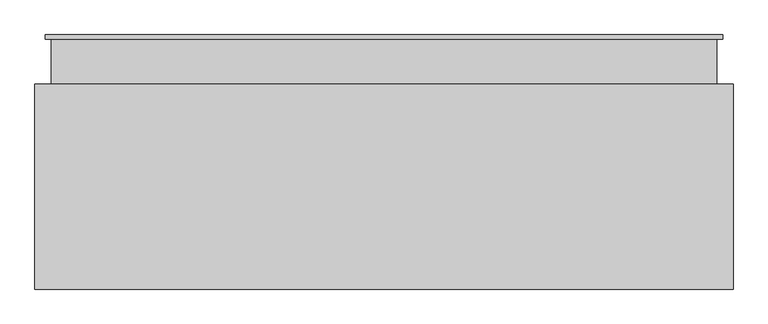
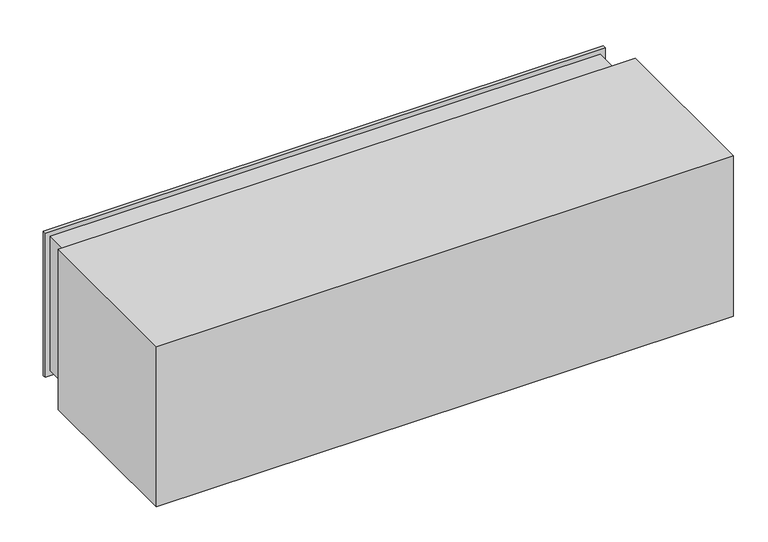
"""IFC4 building model written with IfcOpenShell, lengths in millimetres: air terminal geometry, 020_排気ガラリ : 排気ガラリ."""

from ifc_helpers import new_model, si_unit, frame, origin, place, context, project, spatial, polyline, outline, extrude, faceted_brep, source, transform, mapped, element, save


def air_terminal_4b5e6698(model_context):
    return source(origin(), model_context, "Body", "SolidModel", [
        extrude(outline(polyline([(-48.0, 151.4285714), (-48.0, 136.4285714), (10.0, 106.4285714), (10.0, 91.4285714), (8.0, 91.4285714), (8.0, 105.2113538), (-50.0, 135.2113538), (-50.0, 151.4285714), (-48.0, 151.4285714)])), frame((-800.0, 0.0, 0.0), z_axis=(1.0, 0.0, 0.0), x_axis=(0.0, 1.0, 0.0)), (0.0, 0.0, 1.0), 1600.0),
        extrude(outline(polyline([(-48.0, 102.8571429), (-48.0, 87.8571429), (10.0, 57.8571429), (10.0, 42.8571429), (8.0, 42.8571429), (8.0, 56.6399252), (-50.0, 86.6399252), (-50.0, 102.8571429), (-48.0, 102.8571429)])), frame((-800.0, 0.0, 0.0), z_axis=(1.0, 0.0, 0.0), x_axis=(0.0, 1.0, 0.0)), (0.0, 0.0, 1.0), 1600.0),
        extrude(outline(polyline([(-48.0, 54.2857143), (-48.0, 39.2857143), (10.0, 9.2857143), (10.0, -5.7142857), (8.0, -5.7142857), (8.0, 8.0684967), (-50.0, 38.0684967), (-50.0, 54.2857143), (-48.0, 54.2857143)])), frame((-800.0, 0.0, 0.0), z_axis=(1.0, 0.0, 0.0), x_axis=(0.0, 1.0, 0.0)), (0.0, 0.0, 1.0), 1600.0),
        extrude(outline(polyline([(-48.0, 5.7142857), (-48.0, -9.2857143), (10.0, -39.2857143), (10.0, -54.2857143), (8.0, -54.2857143), (8.0, -40.5029319), (-50.0, -10.5029319), (-50.0, 5.7142857), (-48.0, 5.7142857)])), frame((-800.0, 0.0, 0.0), z_axis=(1.0, 0.0, 0.0), x_axis=(0.0, 1.0, 0.0)), (0.0, 0.0, 1.0), 1600.0),
        extrude(outline(polyline([(-48.0, -42.8571429), (-48.0, -57.8571429), (10.0, -87.8571429), (10.0, -102.8571429), (8.0, -102.8571429), (8.0, -89.0743605), (-50.0, -59.0743605), (-50.0, -42.8571429), (-48.0, -42.8571429)])), frame((-800.0, 0.0, 0.0), z_axis=(1.0, 0.0, 0.0), x_axis=(0.0, 1.0, 0.0)), (0.0, 0.0, 1.0), 1600.0),
        extrude(outline(polyline([(-48.0, -91.4285714), (-48.0, -106.4285714), (10.0, -136.4285714), (10.0, -151.4285714), (8.0, -151.4285714), (8.0, -137.645789), (-50.0, -107.645789), (-50.0, -91.4285714), (-48.0, -91.4285714)])), frame((-800.0, 0.0, 0.0), z_axis=(1.0, 0.0, 0.0), x_axis=(0.0, 1.0, 0.0)), (0.0, 0.0, 1.0), 1600.0),
        extrude(outline(polyline([(-48.0, 200.0), (-48.0, 185.0), (10.0, 155.0), (10.0, 140.0), (8.0, 140.0), (8.0, 153.7827824), (-50.0, 183.7827824), (-50.0, 200.0), (-48.0, 200.0)])), frame((-800.0, 0.0, 0.0), z_axis=(1.0, 0.0, 0.0), x_axis=(0.0, 1.0, 0.0)), (0.0, 0.0, 1.0), 1600.0),
        extrude(outline(polyline([(-48.0, -140.0), (-48.0, -155.0), (10.0, -185.0), (10.0, -200.0), (8.0, -200.0), (8.0, -186.2172176), (-50.0, -156.2172176), (-50.0, -140.0), (-48.0, -140.0)])), frame((-800.0, 0.0, 0.0), z_axis=(1.0, 0.0, 0.0), x_axis=(0.0, 1.0, 0.0)), (0.0, 0.0, 1.0), 1600.0),
        faceted_brep([(800.0, 10.0, 200.0), (800.0, 10.0, -200.0), (800.0, -110.0, -200.0), (800.0, -110.0, 200.0), (825.0, 0.0, 225.0), (825.0, 0.0, -225.0), (825.0, 10.0, -225.0), (825.0, 10.0, 225.0), (810.0, -110.0, 210.0), (810.0, -110.0, -210.0), (810.0, 0.0, -210.0), (810.0, 0.0, 210.0), (-800.0, 10.0, -200.0), (-800.0, -110.0, -200.0), (-825.0, 0.0, -225.0), (-825.0, 10.0, -225.0), (-810.0, -110.0, -210.0), (-810.0, 0.0, -210.0), (-800.0, 10.0, 200.0), (-800.0, -110.0, 200.0), (-825.0, 0.0, 225.0), (-825.0, 10.0, 225.0), (-810.0, -110.0, 210.0), (-810.0, 0.0, 210.0)], [[[0, 1, 2, 3]], [[4, 5, 6, 7]], [[8, 9, 10, 11]], [[1, 12, 13, 2]], [[5, 14, 15, 6]], [[9, 16, 17, 10]], [[12, 18, 19, 13]], [[14, 20, 21, 15]], [[16, 22, 23, 17]], [[18, 0, 3, 19]], [[7, 6, 15, 21], [1, 0, 18, 12]], [[20, 4, 7, 21]], [[5, 4, 20, 14], [11, 10, 17, 23]], [[22, 8, 11, 23]], [[9, 8, 22, 16], [3, 2, 13, 19]]]),
        extrude(outline(polyline([(800.0, 0.0), (800.0, -10.0), (-800.0, -10.0), (-800.0, 0.0), (800.0, 0.0)])), frame((0.0, 0.0, -200.0), z_axis=(0.0, 0.0, 1.0), x_axis=(1.0, 0.0, 0.0)), (0.0, 0.0, 1.0), 400.0),
        extrude(outline(polyline([(850.0, -110.0), (850.0, -610.0), (-850.0, -610.0), (-850.0, -110.0), (850.0, -110.0)])), frame((0.0, 0.0, -250.0), z_axis=(0.0, 0.0, 1.0), x_axis=(1.0, 0.0, 0.0)), (0.0, 0.0, 1.0), 500.0),
    ])


if __name__ == "__main__":
    model = new_model("IFC4")
    model_context = context("Model", 3, world=origin())
    ifc_project = project(units=[si_unit("LENGTHUNIT", "METRE", prefix="MILLI")], contexts=[model_context])
    site = spatial("IfcSite", under=ifc_project)
    building = spatial("IfcBuilding", under=site)
    placement = place(None, origin())
    air_terminal_shape = air_terminal_4b5e6698(model_context)
    element("IfcAirTerminal", 1, ObjectType="020_排気ガラリ : 排気ガラリ", at=placement, inside=building, context=model_context, shape_type="MappedRepresentation", body=[
        mapped(air_terminal_shape, transform((0.0, 0.0, 0.0), x_axis=(1.0, 0.0, 0.0), y_axis=(0.0, 1.0, 0.0), z_axis=(0.0, 0.0, 1.0))),
    ])
    save(model, "model.ifc")
